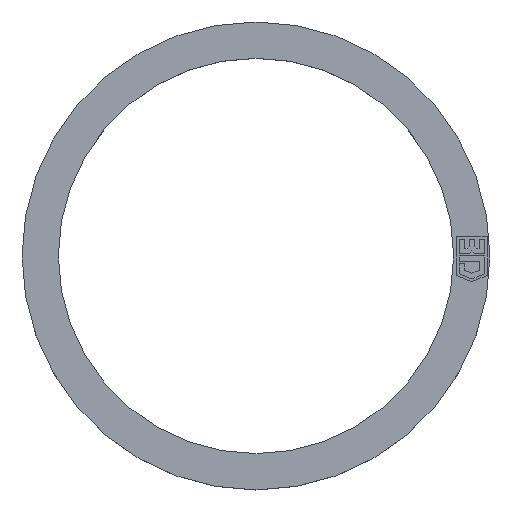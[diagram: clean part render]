
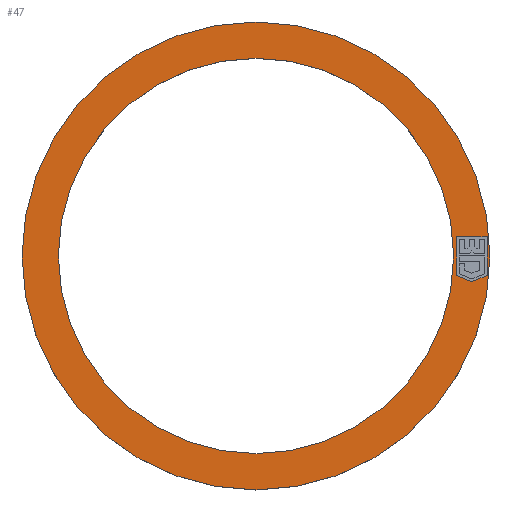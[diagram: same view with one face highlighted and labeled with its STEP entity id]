
A CAD part, top view. The second image highlights one B-rep face of the part: STEP entity #47.
In plain terms, the highlighted planar face has unit normal (0, 0, 1).
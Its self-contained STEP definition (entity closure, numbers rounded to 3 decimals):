
#1 = ORIENTED_EDGE ( 'NONE', *, *, #23, .T. ) ;
#5 = VERTEX_POINT ( 'NONE', #137 ) ;
#18 = ORIENTED_EDGE ( 'NONE', *, *, #1057, .T. ) ;
#19 = VERTEX_POINT ( 'NONE', #113 ) ;
#23 = EDGE_CURVE ( 'NONE', #5, #24, #99, .T. ) ;
#24 = VERTEX_POINT ( 'NONE', #93 ) ;
#26 = EDGE_CURVE ( 'NONE', #36, #5, #92, .T. ) ;
#33 = EDGE_CURVE ( 'NONE', #34, #36, #332, .T. ) ;
#34 = VERTEX_POINT ( 'NONE', #290 ) ;
#35 = ORIENTED_EDGE ( 'NONE', *, *, #33, .T. ) ;
#36 = VERTEX_POINT ( 'NONE', #349 ) ;
#37 = EDGE_CURVE ( 'NONE', #62, #54, #348, .T. ) ;
#40 = ORIENTED_EDGE ( 'NONE', *, *, #37, .T. ) ;
#41 = ORIENTED_EDGE ( 'NONE', *, *, #72, .F. ) ;
#42 = EDGE_LOOP ( 'NONE', ( #40, #73 ) ) ;
#44 = ORIENTED_EDGE ( 'NONE', *, *, #46, .F. ) ;
#45 = EDGE_LOOP ( 'NONE', ( #41, #44 ) ) ;
#46 = EDGE_CURVE ( 'NONE', #69, #70, #308, .T. ) ;
#47 = ADVANCED_FACE ( 'NONE', ( #309, #359, #358 ), #357, .T. ) ;
#53 = EDGE_CURVE ( 'NONE', #54, #62, #371, .T. ) ;
#54 = VERTEX_POINT ( 'NONE', #367 ) ;
#62 = VERTEX_POINT ( 'NONE', #350 ) ;
#69 = VERTEX_POINT ( 'NONE', #388 ) ;
#70 = VERTEX_POINT ( 'NONE', #387 ) ;
#71 = EDGE_LOOP ( 'NONE', ( #35, #1066, #1, #1067, #18 ) ) ;
#72 = EDGE_CURVE ( 'NONE', #70, #69, #385, .T. ) ;
#73 = ORIENTED_EDGE ( 'NONE', *, *, #53, .T. ) ;
#89 = DIRECTION ( 'NONE',  ( -0.924, 0.383, 0. ) ) ;
#90 = VECTOR ( 'NONE', #89, 1000. ) ;
#91 = CARTESIAN_POINT ( 'NONE',  ( 15.45, -1.847, 3. ) ) ;
#92 = LINE ( 'NONE', #91, #90 ) ;
#93 = CARTESIAN_POINT ( 'NONE',  ( 14.355, 1.393, 3. ) ) ;
#96 = DIRECTION ( 'NONE',  ( 0., 1., 0. ) ) ;
#97 = VECTOR ( 'NONE', #96, 1000. ) ;
#98 = CARTESIAN_POINT ( 'NONE',  ( 14.355, -1.393, 3. ) ) ;
#99 = LINE ( 'NONE', #98, #97 ) ;
#113 = CARTESIAN_POINT ( 'NONE',  ( 16.545, 1.393, 3. ) ) ;
#137 = CARTESIAN_POINT ( 'NONE',  ( 14.355, -1.393, 3. ) ) ;
#290 = CARTESIAN_POINT ( 'NONE',  ( 16.545, -1.393, 3. ) ) ;
#291 = DIRECTION ( 'NONE',  ( -0.924, -0.383, 0. ) ) ;
#307 = AXIS2_PLACEMENT_3D ( 'NONE', #399, #398, #397 ) ;
#308 = CIRCLE ( 'NONE', #363, 14.15 ) ;
#309 = FACE_BOUND ( 'NONE', #45, .T. ) ;
#332 = LINE ( 'NONE', #365, #364 ) ;
#341 = DIRECTION ( 'NONE',  ( 1., 0., 0. ) ) ;
#342 = DIRECTION ( 'NONE',  ( 0., 0., 1. ) ) ;
#343 = CARTESIAN_POINT ( 'NONE',  ( 0., 0., 3. ) ) ;
#348 = CIRCLE ( 'NONE', #307, 16.75 ) ;
#349 = CARTESIAN_POINT ( 'NONE',  ( 15.45, -1.847, 3. ) ) ;
#350 = CARTESIAN_POINT ( 'NONE',  ( -16.75, 0., 3. ) ) ;
#357 = PLANE ( 'NONE',  #405 ) ;
#358 = FACE_BOUND ( 'NONE', #71, .T. ) ;
#359 = FACE_OUTER_BOUND ( 'NONE', #42, .T. ) ;
#360 = DIRECTION ( 'NONE',  ( 1., 0., 0. ) ) ;
#361 = DIRECTION ( 'NONE',  ( 0., 0., 1. ) ) ;
#362 = CARTESIAN_POINT ( 'NONE',  ( 0., 0., 3. ) ) ;
#363 = AXIS2_PLACEMENT_3D ( 'NONE', #362, #361, #360 ) ;
#364 = VECTOR ( 'NONE', #291, 1000. ) ;
#365 = CARTESIAN_POINT ( 'NONE',  ( 15.45, -1.847, 3. ) ) ;
#367 = CARTESIAN_POINT ( 'NONE',  ( 16.75, 0., 3. ) ) ;
#368 = DIRECTION ( 'NONE',  ( 1., 0., 0. ) ) ;
#369 = DIRECTION ( 'NONE',  ( 0., 0., 1. ) ) ;
#370 = AXIS2_PLACEMENT_3D ( 'NONE', #381, #369, #368 ) ;
#371 = CIRCLE ( 'NONE', #370, 16.75 ) ;
#381 = CARTESIAN_POINT ( 'NONE',  ( 0., 0., 3. ) ) ;
#384 = AXIS2_PLACEMENT_3D ( 'NONE', #343, #342, #341 ) ;
#385 = CIRCLE ( 'NONE', #384, 14.15 ) ;
#387 = CARTESIAN_POINT ( 'NONE',  ( -14.15, 0., 3. ) ) ;
#388 = CARTESIAN_POINT ( 'NONE',  ( 14.15, 0., 3. ) ) ;
#397 = DIRECTION ( 'NONE',  ( 1., 0., 0. ) ) ;
#398 = DIRECTION ( 'NONE',  ( 0., 0., 1. ) ) ;
#399 = CARTESIAN_POINT ( 'NONE',  ( 0., 0., 3. ) ) ;
#402 = DIRECTION ( 'NONE',  ( 1., 0., 0. ) ) ;
#403 = DIRECTION ( 'NONE',  ( 0., 0., 1. ) ) ;
#404 = CARTESIAN_POINT ( 'NONE',  ( 0., 0., 3. ) ) ;
#405 = AXIS2_PLACEMENT_3D ( 'NONE', #404, #403, #402 ) ;
#557 = DIRECTION ( 'NONE',  ( 0., -1., 0. ) ) ;
#558 = VECTOR ( 'NONE', #557, 1000. ) ;
#559 = CARTESIAN_POINT ( 'NONE',  ( 16.545, 1.393, 3. ) ) ;
#560 = LINE ( 'NONE', #559, #558 ) ;
#561 = DIRECTION ( 'NONE',  ( 1., 0., 0. ) ) ;
#562 = VECTOR ( 'NONE', #561, 1000. ) ;
#563 = CARTESIAN_POINT ( 'NONE',  ( 14.355, 1.393, 3. ) ) ;
#564 = LINE ( 'NONE', #563, #562 ) ;
#1056 = EDGE_CURVE ( 'NONE', #24, #19, #564, .T. ) ;
#1057 = EDGE_CURVE ( 'NONE', #19, #34, #560, .T. ) ;
#1066 = ORIENTED_EDGE ( 'NONE', *, *, #26, .T. ) ;
#1067 = ORIENTED_EDGE ( 'NONE', *, *, #1056, .T. ) ;
